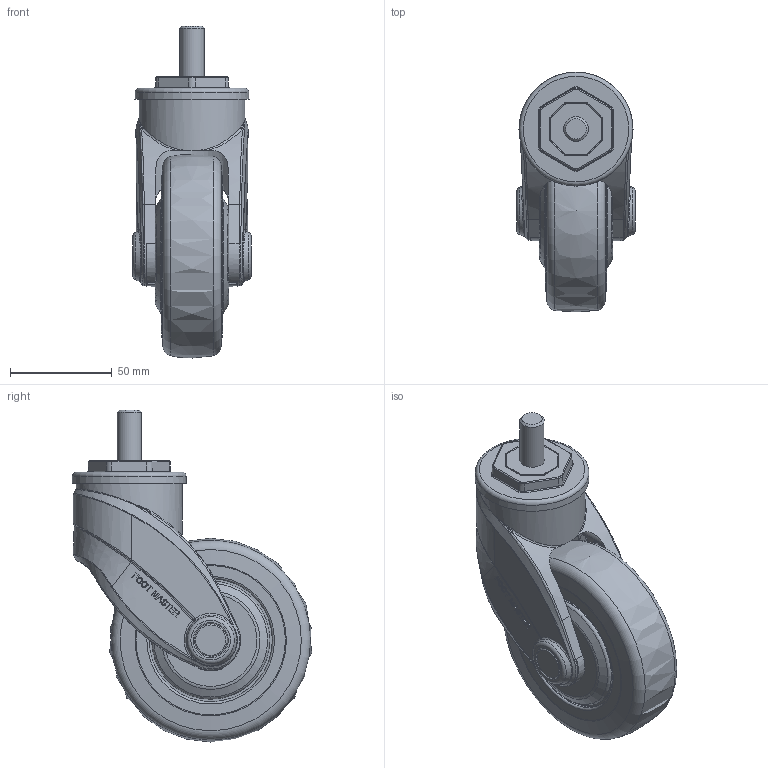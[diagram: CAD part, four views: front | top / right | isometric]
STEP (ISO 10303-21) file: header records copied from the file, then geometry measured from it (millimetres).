
FILE_DESCRIPTION(/* description */ (''),/* implementation_level */ '2;1');
FILE_NAME(/* name */ '\\192.168.10.38\지덕공유\1.기술연구소\2.연구개발 진행중\129.Plastic caster검토건_2025.08.12\1.도면\4.홈페이지용 도면\GPC-100-ASS_F4-7_#6806_M12 STEM_샤프트 리벳_Shrinkwrap_1.stp',/* time_stamp */ '2026-08-19T17:41:13+09:00',/* author */ ('admin'),/* organization */ (''),/* preprocessor_version */ 'ST-DEVELOPER v18.1',/* originating_system */ 'Autodesk Inventor 2021',/* authorisation */ '');
FILE_SCHEMA (('AUTOMOTIVE_DESIGN { 1 0 10303 214 3 1 1 }'));
Length unit declared in the file: millimetre
Products named in the file (1): #56354
Bounding box: 58 x 117.64 x 163 mm (x, y, z)
Volume: 351332.6 mm3; surface area: 51286.6 mm2
Topology: 1 solids, 1 shells, 840 faces, 2246 edges, 1439 vertices
Faces by surface type: bspline 414, plane 234, cylinder 104, cone 47, torus 38, sphere 3
Full cylindrical faces by diameter (mm): 12 x1, 18 x1, 40.6 x1, 52 x1
Entity records: 56348 total; most frequent: CARTESIAN_POINT 38368, ORIENTED_EDGE 4476, DIRECTION 2557, EDGE_CURVE 2238, VERTEX_POINT 1439, B_SPLINE_CURVE_WITH_KNOTS 1114, AXIS2_PLACEMENT_3D 1011, EDGE_LOOP 883
